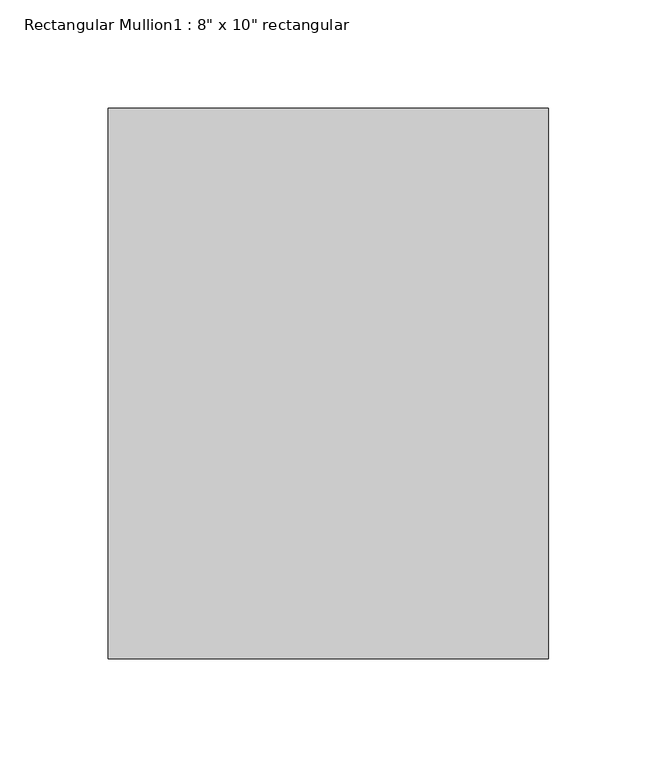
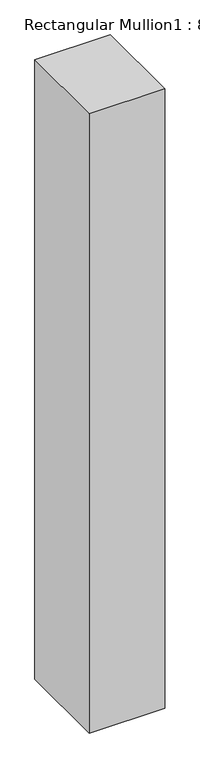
"""IFC4 building model written with IfcOpenShell, lengths in millimetres: member geometry."""

from ifc_helpers import new_model, si_unit, frame, origin, place, context, project, spatial, polyline, outline, extrude, source, transform, mapped, element, save


def member_707c4438(model_context):
    return source(origin(), model_context, "Body", "SweptSolid", [
        extrude(outline(polyline([(101.6, 127.0), (101.6, -127.0), (-101.6, -127.0), (-101.6, 127.0), (101.6, 127.0)])), frame((0.0, 0.0, -1765.3), z_axis=(0.0, 0.0, 1.0), x_axis=(1.0, 0.0, 0.0)), (0.0, 0.0, 1.0), 1765.3),
    ])


if __name__ == "__main__":
    model = new_model("IFC4")
    model_context = context("Model", 3, world=origin())
    ifc_project = project(units=[si_unit("LENGTHUNIT", "METRE", prefix="MILLI")], contexts=[model_context])
    site = spatial("IfcSite", under=ifc_project)
    building = spatial("IfcBuilding", under=site)
    placement = place(None, origin())
    member_shape = member_707c4438(model_context)
    element("IfcMember", 1, ObjectType="Rectangular Mullion1 : 8\" x 10\" rectangular", at=placement, inside=building, context=model_context, shape_type="MappedRepresentation", body=[
        mapped(member_shape, transform((0.0, 0.0, 0.0), x_axis=(1.0, 0.0, 0.0), y_axis=(0.0, 1.0, 0.0), z_axis=(0.0, 0.0, 1.0))),
    ])
    save(model, "model.ifc")
